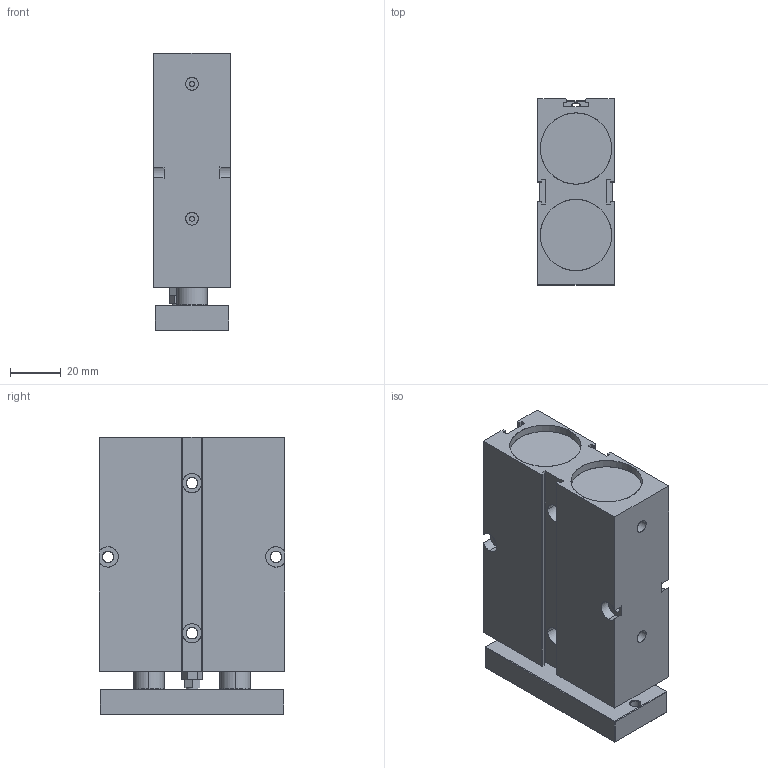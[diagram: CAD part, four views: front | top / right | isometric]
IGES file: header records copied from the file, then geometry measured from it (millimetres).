
Start section: SolidWorks IGES file using analytic representation for surfaces
Global section: file name: D:\ARICA 3D 禽Z軲LER\3D IGES\TN\TN 25\TN-25X25-CYLINDER.IGS,1; native system: 5HSolidWorks 2013; preprocessor: SolidWorks 2013; author: user; date: 150709.095948; units: millimetre
Bounding box: 30 x 73 x 109 mm (x, y, z)
Surface area: 51482.7 mm2 (no closed solid volume)
Topology: 0 solids, 0 shells, 245 faces, 3866 edges, 3857 vertices
Faces by surface type: revolution 126, bspline 119
